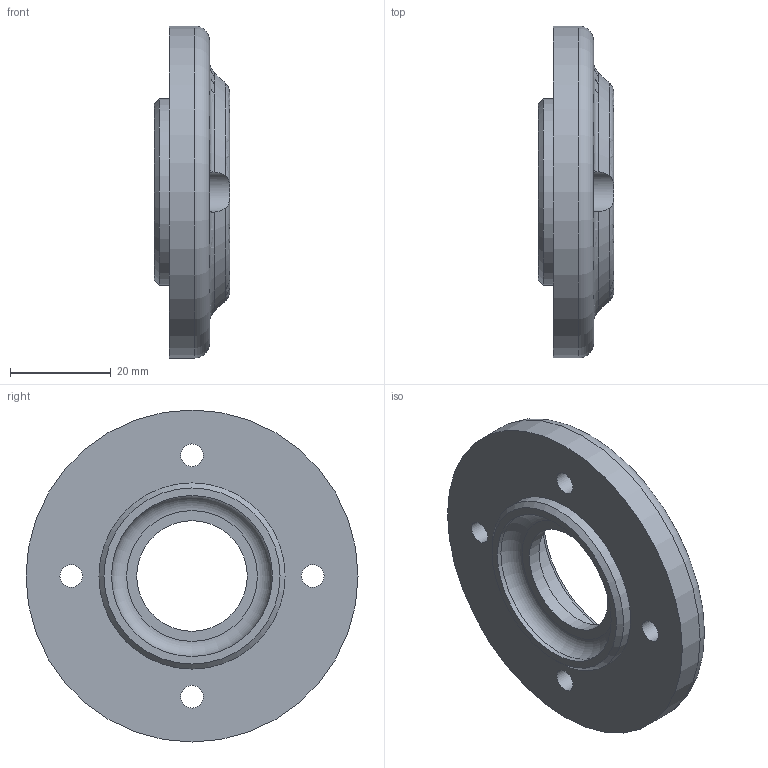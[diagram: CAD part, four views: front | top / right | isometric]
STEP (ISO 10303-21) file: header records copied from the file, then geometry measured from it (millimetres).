
FILE_DESCRIPTION(/* description */ (''),/* implementation_level */ '2;1');
FILE_NAME(/* name */ '',/* time_stamp */ '2026-06-02T17:07:57+09:00',/* author */ ('jhkim'),/* organization */ (''),/* preprocessor_version */ 'ST-DEVELOPER v20.1',/* originating_system */ 'Autodesk Inventor 2027',/* authorisation */ '');
FILE_SCHEMA (('AUTOMOTIVE_DESIGN { 1 0 10303 214 3 1 1 }'));
Length unit declared in the file: millimetre
Products named in the file (1): 커버
Bounding box: 15 x 66 x 66 mm (x, y, z)
Volume: 23368.1 mm3; surface area: 9903 mm2
Topology: 1 solids, 1 shells, 37 faces, 92 edges, 61 vertices
Faces by surface type: cylinder 13, plane 10, torus 8, cone 6
Full cylindrical faces by diameter (mm): 4.5 x4, 8 x4, 22 x1, 32 x1, 35 x1, 37 x1, 66 x1
Entity records: 1366 total; most frequent: CARTESIAN_POINT 414, DIRECTION 195, ORIENTED_EDGE 184, EDGE_CURVE 92, AXIS2_PLACEMENT_3D 90, VERTEX_POINT 61, CIRCLE 52, EDGE_LOOP 51
